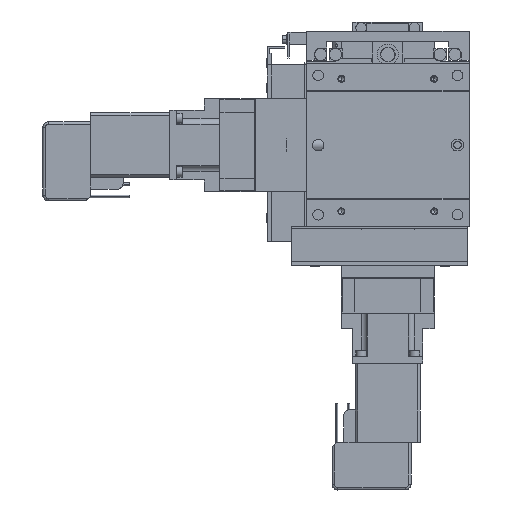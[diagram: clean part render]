
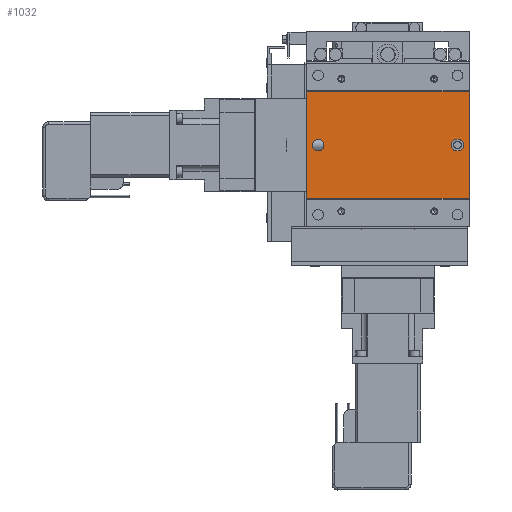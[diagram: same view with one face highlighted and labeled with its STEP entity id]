
A CAD part, front view. The second image highlights one B-rep face of the part: STEP entity #1032.
In plain terms, the highlighted planar face has unit normal (0, -1, 0).
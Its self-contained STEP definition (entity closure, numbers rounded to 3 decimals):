
#1032=ADVANCED_FACE('',(#2999,#3000,#3001),#3002,.F.);
#2999=FACE_BOUND('',#6990,.T.);
#3000=FACE_OUTER_BOUND('',#6991,.T.);
#3001=FACE_BOUND('',#6992,.T.);
#3002=PLANE('',#6993);
#6990=EDGE_LOOP('',(#11526,#11527,#11528,#11529));
#6991=EDGE_LOOP('',(#11530,#11531,#11532,#11533));
#6992=EDGE_LOOP('',(#11534,#11535,#11536));
#6993=AXIS2_PLACEMENT_3D('',#11537,#11538,#11539);
#11526=ORIENTED_EDGE('',*,*,#25972,.F.);
#11527=ORIENTED_EDGE('',*,*,#25973,.F.);
#11528=ORIENTED_EDGE('',*,*,#25974,.F.);
#11529=ORIENTED_EDGE('',*,*,#25975,.F.);
#11530=ORIENTED_EDGE('',*,*,#25961,.T.);
#11531=ORIENTED_EDGE('',*,*,#25976,.F.);
#11532=ORIENTED_EDGE('',*,*,#25977,.F.);
#11533=ORIENTED_EDGE('',*,*,#25978,.T.);
#11534=ORIENTED_EDGE('',*,*,#25858,.F.);
#11535=ORIENTED_EDGE('',*,*,#25857,.F.);
#11536=ORIENTED_EDGE('',*,*,#25979,.F.);
#11537=CARTESIAN_POINT('',(-35.,0.35,-23.15));
#11538=DIRECTION('',(0.,1.0,0.));
#11539=DIRECTION('',(-1.0,0.,0.));
#25857=EDGE_CURVE('',#30622,#30624,#30625,.F.);
#25858=EDGE_CURVE('',#30624,#30618,#30626,.F.);
#25961=EDGE_CURVE('',#30819,#30817,#30820,.T.);
#25972=EDGE_CURVE('',#30839,#30840,#30841,.F.);
#25973=EDGE_CURVE('',#30842,#30839,#30843,.T.);
#25974=EDGE_CURVE('',#30844,#30842,#30845,.F.);
#25975=EDGE_CURVE('',#30840,#30844,#30846,.T.);
#25976=EDGE_CURVE('',#30847,#30817,#30848,.T.);
#25977=EDGE_CURVE('',#30849,#30847,#30850,.T.);
#25978=EDGE_CURVE('',#30849,#30819,#30851,.T.);
#25979=EDGE_CURVE('',#30618,#30622,#30852,.F.);
#30618=VERTEX_POINT('',#38326);
#30622=VERTEX_POINT('',#38331);
#30624=VERTEX_POINT('',#38334);
#30625=CIRCLE('',#38335,2.5);
#30626=CIRCLE('',#38336,2.5);
#30817=VERTEX_POINT('',#38585);
#30819=VERTEX_POINT('',#38588);
#30820=LINE('',#38589,#38590);
#30839=VERTEX_POINT('',#38618);
#30840=VERTEX_POINT('',#38619);
#30841=CIRCLE('',#38620,2.5);
#30842=VERTEX_POINT('',#38621);
#30843=LINE('',#38622,#38623);
#30844=VERTEX_POINT('',#38624);
#30845=CIRCLE('',#38625,2.5);
#30846=LINE('',#38626,#38627);
#30847=VERTEX_POINT('',#38628);
#30848=LINE('',#38629,#38630);
#30849=VERTEX_POINT('',#38631);
#30850=LINE('',#38632,#38633);
#30851=LINE('',#38634,#38635);
#30852=CIRCLE('',#38636,2.5);
#38326=CARTESIAN_POINT('',(-27.5,0.35,0.));
#38331=CARTESIAN_POINT('',(-32.5,0.35,0.));
#38334=CARTESIAN_POINT('',(-30.,0.35,-2.5));
#38335=AXIS2_PLACEMENT_3D('',#49875,#49876,#49877);
#38336=AXIS2_PLACEMENT_3D('',#49878,#49879,#49880);
#38585=CARTESIAN_POINT('',(35.,0.35,23.15));
#38588=CARTESIAN_POINT('',(35.,0.35,-23.15));
#38589=CARTESIAN_POINT('',(35.,0.35,-23.15));
#38590=VECTOR('',#50069,1000.0);
#38618=CARTESIAN_POINT('',(30.25,0.35,-2.5));
#38619=CARTESIAN_POINT('',(30.25,0.35,2.5));
#38620=AXIS2_PLACEMENT_3D('',#50082,#50083,#50084);
#38621=CARTESIAN_POINT('',(29.75,0.35,-2.5));
#38622=CARTESIAN_POINT('',(-35.,0.35,-2.5));
#38623=VECTOR('',#50085,1000.0);
#38624=CARTESIAN_POINT('',(29.75,0.35,2.5));
#38625=AXIS2_PLACEMENT_3D('',#50086,#50087,#50088);
#38626=CARTESIAN_POINT('',(-35.,0.35,2.5));
#38627=VECTOR('',#50089,1000.0);
#38628=CARTESIAN_POINT('',(-35.,0.35,23.15));
#38629=CARTESIAN_POINT('',(-35.,0.35,23.15));
#38630=VECTOR('',#50090,1000.0);
#38631=CARTESIAN_POINT('',(-35.,0.35,-23.15));
#38632=CARTESIAN_POINT('',(-35.,0.35,-23.15));
#38633=VECTOR('',#50091,1000.0);
#38634=CARTESIAN_POINT('',(-35.,0.35,-23.15));
#38635=VECTOR('',#50092,1000.0);
#38636=AXIS2_PLACEMENT_3D('',#50093,#50094,#50095);
#49875=CARTESIAN_POINT('',(-30.0,0.35,0.));
#49876=DIRECTION('',(0.,1.0,0.));
#49877=DIRECTION('',(0.,0.,-1.0));
#49878=CARTESIAN_POINT('',(-30.0,0.35,0.));
#49879=DIRECTION('',(0.,1.0,0.));
#49880=DIRECTION('',(0.,0.,-1.0));
#50069=DIRECTION('',(0.,0.,1.0));
#50082=CARTESIAN_POINT('',(30.25,0.35,0.));
#50083=DIRECTION('',(0.,1.0,0.));
#50084=DIRECTION('',(0.,0.,-1.0));
#50085=DIRECTION('',(1.0,0.,0.));
#50086=CARTESIAN_POINT('',(29.75,0.35,0.));
#50087=DIRECTION('',(0.,1.0,0.));
#50088=DIRECTION('',(0.,0.,-1.0));
#50089=DIRECTION('',(-1.0,0.,0.));
#50090=DIRECTION('',(1.0,0.,0.));
#50091=DIRECTION('',(0.,0.,1.0));
#50092=DIRECTION('',(1.0,0.,0.));
#50093=CARTESIAN_POINT('',(-30.0,0.35,0.));
#50094=DIRECTION('',(0.,1.0,0.));
#50095=DIRECTION('',(0.,0.,-1.0));
